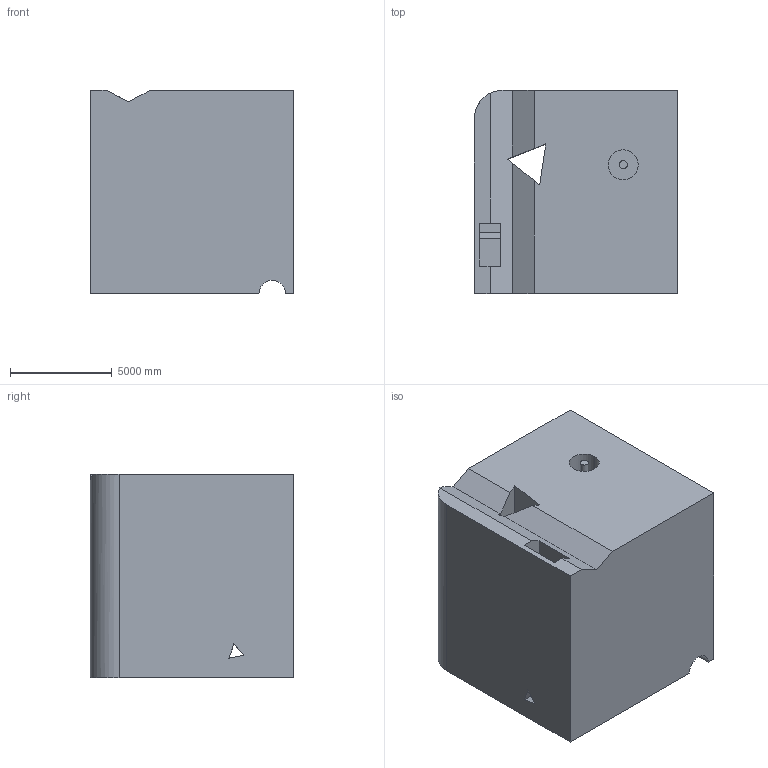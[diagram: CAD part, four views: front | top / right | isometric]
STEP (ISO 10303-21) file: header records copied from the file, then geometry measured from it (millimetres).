
FILE_DESCRIPTION (( 'STEP AP203' ), '1' );
FILE_NAME ('73.STEP', '2022-08-30T14:22:28', ( 'user' ), ( '' ), 'SwSTEP 2.0', 'SolidWorks 2021', '' );
FILE_SCHEMA (( 'CONFIG_CONTROL_DESIGN' ));
Length unit declared in the file: centimetre
Products named in the file (1): 73
Bounding box: 10000 x 10000 x 10000 mm (x, y, z)
Volume: 938848871086.5 mm3; surface area: 751112732.9 mm2
Topology: 1 solids, 1 shells, 38 faces, 108 edges, 72 vertices
Faces by surface type: plane 32, cylinder 6
Entity records: 1313 total; most frequent: CARTESIAN_POINT 222, ORIENTED_EDGE 216, DIRECTION 197, EDGE_CURVE 108, VECTOR 95, LINE 95, VERTEX_POINT 72, AXIS2_PLACEMENT_3D 51
